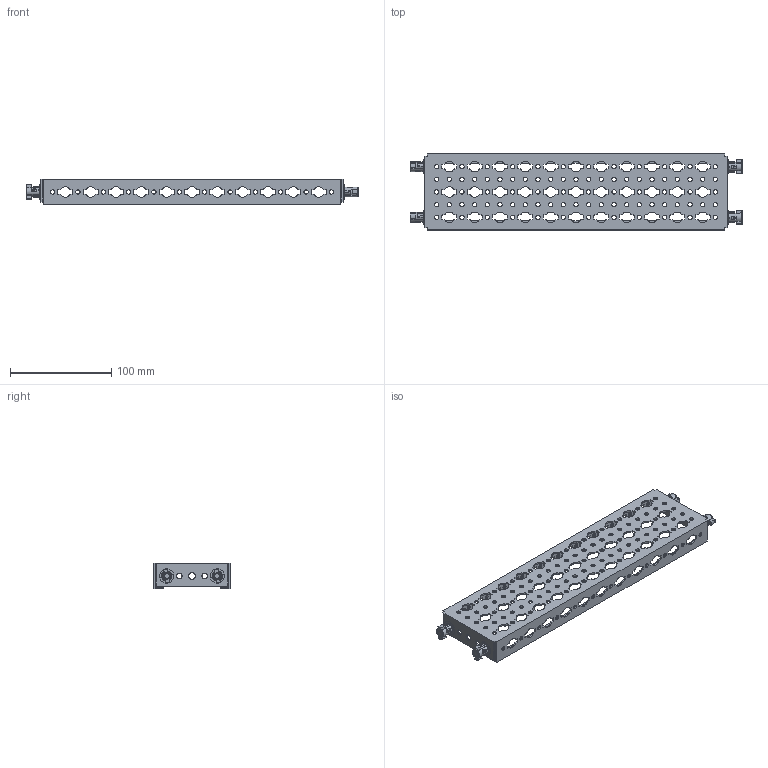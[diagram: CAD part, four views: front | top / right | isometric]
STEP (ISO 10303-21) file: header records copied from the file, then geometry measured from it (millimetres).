
FILE_DESCRIPTION(('Open CASCADE Model'),'2;1');
FILE_NAME('Open CASCADE Shape Model','2025-02-21T17:49:04',('Author'),( 'Open CASCADE'),'Open CASCADE STEP processor 7.8','Open CASCADE 7.8' ,'Unknown');
FILE_SCHEMA(('AUTOMOTIVE_DESIGN { 1 0 10303 214 1 1 1 1 }'));
Length unit declared in the file: millimetre
Products named in the file (4): Compound1; Solid1; Solid2; Solid3
Assembly tree (9 placements, depth 2):
  Compound1
    Solid1
    Solid2  x4
    Solid3  x4
Bounding box: 327.6 x 75 x 25 mm (x, y, z)
Volume: 58922.7 mm3; surface area: 86902.8 mm2
Topology: 13 solids, 13 shells, 1790 faces, 5113 edges, 3341 vertices
Faces by surface type: cylinder 822, plane 692, bspline 176, torus 56, cone 40, sphere 4
Full cylindrical faces by diameter (mm): 4.2 x106, 5.5 x4, 6 x4, 6.5 x10, 8.3 x4, 12 x4
Entity records: 46460 total; most frequent: CARTESIAN_POINT 11848, ORIENTED_EDGE 7332, DIRECTION 7266, EDGE_CURVE 3666, AXIS2_PLACEMENT_3D 2713, VERTEX_POINT 2444, LINE 1840, VECTOR 1840
